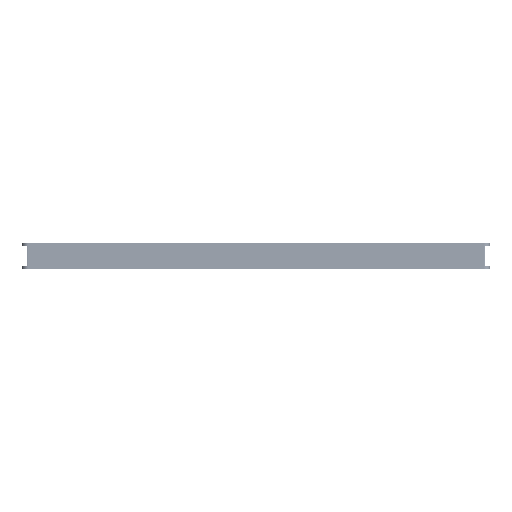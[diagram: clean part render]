
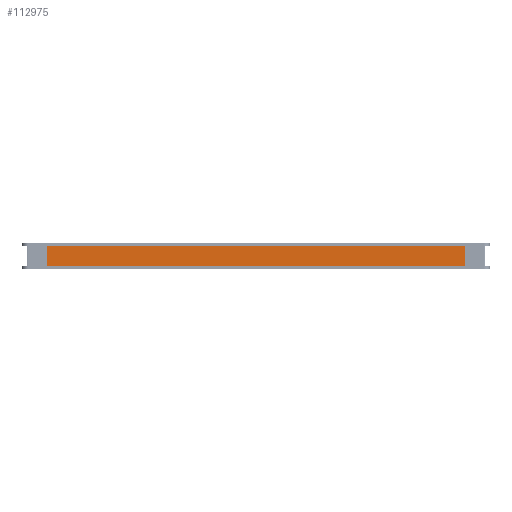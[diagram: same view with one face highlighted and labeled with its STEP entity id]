
A CAD part, left-side view. The second image highlights one B-rep face of the part: STEP entity #112975.
In plain terms, the highlighted planar face has unit normal (-1, 0, 0).
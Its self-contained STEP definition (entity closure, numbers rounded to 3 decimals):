
#3578 = ORIENTED_EDGE ( 'NONE', *, *, #40390, .T. ) ;
#6125 = VECTOR ( 'NONE', #16274, 1000. ) ;
#9469 = CARTESIAN_POINT ( 'NONE',  ( -725.983, 467.86, -131.045 ) ) ;
#12169 = FACE_OUTER_BOUND ( 'NONE', #19945, .T. ) ;
#12741 = DIRECTION ( 'NONE',  ( 0., 0., 1. ) ) ;
#16274 = DIRECTION ( 'NONE',  ( 0., 0., -1. ) ) ;
#19945 = EDGE_LOOP ( 'NONE', ( #32607, #3578, #69895, #21919 ) ) ;
#21919 = ORIENTED_EDGE ( 'NONE', *, *, #47671, .T. ) ;
#22410 = VECTOR ( 'NONE', #12741, 1000. ) ;
#23246 = DIRECTION ( 'NONE',  ( 0., -1., 0. ) ) ;
#30453 = CARTESIAN_POINT ( 'NONE',  ( -725.983, -398.14, -92.045 ) ) ;
#32607 = ORIENTED_EDGE ( 'NONE', *, *, #62527, .T. ) ;
#32937 = CARTESIAN_POINT ( 'NONE',  ( -725.983, -398.14, -92.045 ) ) ;
#37541 = CARTESIAN_POINT ( 'NONE',  ( -725.983, -398.14, -131.045 ) ) ;
#40390 = EDGE_CURVE ( 'NONE', #67625, #111720, #93122, .T. ) ;
#42671 = PLANE ( 'NONE',  #59022 ) ;
#46590 = LINE ( 'NONE', #32937, #86973 ) ;
#47671 = EDGE_CURVE ( 'NONE', #112421, #116071, #46590, .T. ) ;
#50764 = CARTESIAN_POINT ( 'NONE',  ( -725.983, 34.86, -111.545 ) ) ;
#53097 = CARTESIAN_POINT ( 'NONE',  ( -725.983, 467.86, -92.045 ) ) ;
#55628 = VECTOR ( 'NONE', #110187, 1000. ) ;
#59022 = AXIS2_PLACEMENT_3D ( 'NONE', #50764, #116436, #23246 ) ;
#61781 = CARTESIAN_POINT ( 'NONE',  ( -725.983, -398.14, -92.045 ) ) ;
#62453 = LINE ( 'NONE', #53097, #6125 ) ;
#62527 = EDGE_CURVE ( 'NONE', #116071, #67625, #62453, .T. ) ;
#67625 = VERTEX_POINT ( 'NONE', #9469 ) ;
#69895 = ORIENTED_EDGE ( 'NONE', *, *, #116069, .T. ) ;
#71580 = LINE ( 'NONE', #30453, #22410 ) ;
#74815 = CARTESIAN_POINT ( 'NONE',  ( -725.983, -398.14, -131.045 ) ) ;
#76549 = CARTESIAN_POINT ( 'NONE',  ( -725.983, 467.86, -92.045 ) ) ;
#86973 = VECTOR ( 'NONE', #106804, 1000. ) ;
#93122 = LINE ( 'NONE', #37541, #55628 ) ;
#106804 = DIRECTION ( 'NONE',  ( 0., 1., 0. ) ) ;
#110187 = DIRECTION ( 'NONE',  ( 0., -1., 0. ) ) ;
#111720 = VERTEX_POINT ( 'NONE', #74815 ) ;
#112421 = VERTEX_POINT ( 'NONE', #61781 ) ;
#112975 = ADVANCED_FACE ( 'NONE', ( #12169 ), #42671, .F. ) ;
#116069 = EDGE_CURVE ( 'NONE', #111720, #112421, #71580, .T. ) ;
#116071 = VERTEX_POINT ( 'NONE', #76549 ) ;
#116436 = DIRECTION ( 'NONE',  ( 1., 0., 0. ) ) ;
